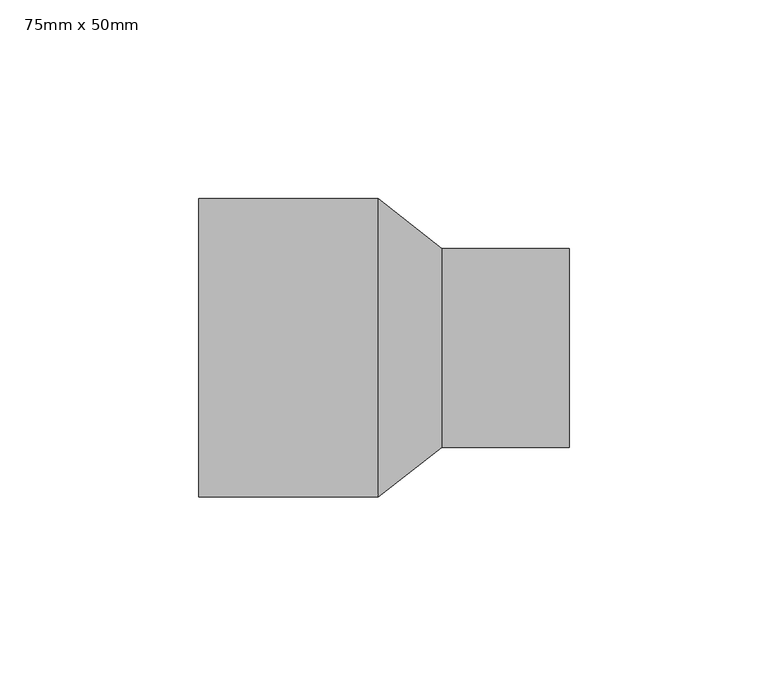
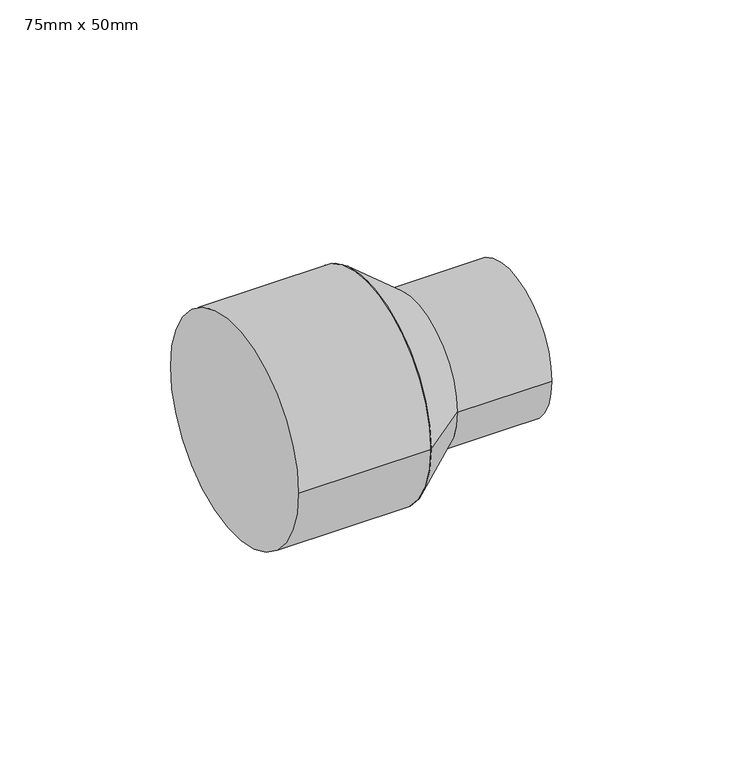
"""IFC4 building model written with IfcOpenShell, lengths in millimetres: pipe fitting geometry, PipeFitting_HTA_CPVC_ReducingBushesLongPattern : 75mm x 50mm."""

from ifc_helpers import new_model, si_unit, point, frame, origin, origin_2d, place, context, project, spatial, polyline, circle_curve, trimmed, segment, composite_curve, outline, extrude, source, transform, mapped, element, save
from ifc_brep_helpers import plane_surface, revolved_surface, advanced_brep


def pipe_fitting_75mm_x_50mm_5bc469b1(model_context):
    return source(origin(), model_context, "Body", "SolidModel", [
        advanced_brep(
        [(61.0, -25.0, 0.0), (61.0, 25.0, 0.0), (45.0, -37.5, 0.0), (45.0, 37.5, 0.0)],
        [
            (0, 1, circle_curve(frame((61.0, 0.0, 0.0), z_axis=(1.0, 0.0, 0.0), x_axis=(0.0, -1.0, 0.0)), 25.0)),
            (1, 0, circle_curve(frame((61.0, 0.0, 0.0), z_axis=(1.0, 0.0, 0.0), x_axis=(0.0, 1.0, 0.0)), 25.0)),
            (2, 3, circle_curve(frame((45.0, 0.0, 0.0), z_axis=(-1.0, 0.0, 0.0), x_axis=(0.0, 1.0, 0.0)), 37.5)),
            (3, 2, circle_curve(frame((45.0, 0.0, 0.0), z_axis=(-1.0, 0.0, 0.0), x_axis=(0.0, -1.0, 0.0)), 37.5)),
            (3, 1),
            (0, 2),
        ],
        [
            plane_surface(frame((61.0, 0.0, 0.0), z_axis=(1.0, 0.0, 0.0), x_axis=(0.0, 0.0, -1.0))),
            plane_surface(frame((45.0, 0.0, 0.0), z_axis=(-1.0, 0.0, 0.0), x_axis=(0.0, 0.0, -1.0))),
            revolved_surface(polyline([(61.0, -25.0, 0.0), (45.0, -37.5, 0.0)]), (93.0, 0.0, 0.0), (-1.0, 0.0, 0.0)),
            revolved_surface(polyline([(61.0, 25.0, 0.0), (45.0, 37.5, 0.0)]), (93.0, 0.0, 0.0), (-1.0, 0.0, 0.0)),
        ],
        [
            (0, [[1, 2]]),
            (1, [[3, 4]]),
            (2, [[-4, 5, -1, 6]]),
            (3, [[-3, -6, -2, -5]]),
        ],
    ),
        extrude(outline(composite_curve([segment(trimmed(circle_curve(origin_2d(), 25.0), [point((-25.0, 0.0))], [point((25.0, 0.0))], False, "CARTESIAN"), True, "CONTINUOUS"), segment(trimmed(circle_curve(origin_2d(), 25.0), [point((25.0, 0.0))], [point((-25.0, 0.0))], False, "CARTESIAN"), True, "CONTINUOUS")], self_intersect=False)), frame((61.0, 0.0, 0.0), z_axis=(1.0, 0.0, 0.0), x_axis=(0.0, 1.0, 0.0)), (0.0, 0.0, 1.0), 32.0),
        extrude(outline(composite_curve([segment(trimmed(circle_curve(origin_2d(), 37.5), [point((-37.5, 0.0))], [point((37.5, 0.0))], False, "CARTESIAN"), True, "CONTINUOUS"), segment(trimmed(circle_curve(origin_2d(), 37.5), [point((37.5, 0.0))], [point((-37.5, 0.0))], False, "CARTESIAN"), True, "CONTINUOUS")], self_intersect=False)), frame((0.0, 0.0, 0.0), z_axis=(1.0, 0.0, 0.0), x_axis=(0.0, 1.0, 0.0)), (0.0, 0.0, 1.0), 45.0),
    ])


if __name__ == "__main__":
    model = new_model("IFC4")
    model_context = context("Model", 3, world=origin())
    ifc_project = project(units=[si_unit("LENGTHUNIT", "METRE", prefix="MILLI")], contexts=[model_context])
    site = spatial("IfcSite", under=ifc_project)
    building = spatial("IfcBuilding", under=site)
    placement = place(None, origin())
    pipe_fitting_75mm_x_50mm_shape = pipe_fitting_75mm_x_50mm_5bc469b1(model_context)
    element("IfcPipeFitting", 1, ObjectType="PipeFitting_HTA_CPVC_ReducingBushesLongPattern : 75mm x 50mm", at=placement, inside=building, context=model_context, shape_type="MappedRepresentation", body=[
        mapped(pipe_fitting_75mm_x_50mm_shape, transform((0.0, 0.0, 0.0), x_axis=(1.0, 0.0, 0.0), y_axis=(0.0, 1.0, 0.0), z_axis=(0.0, 0.0, 1.0))),
    ])
    save(model, "model.ifc")
